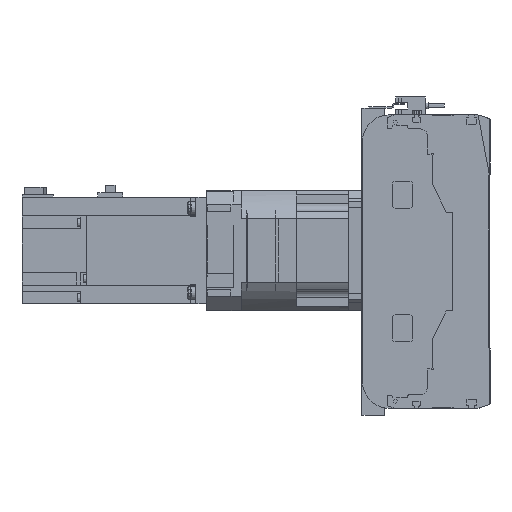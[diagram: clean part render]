
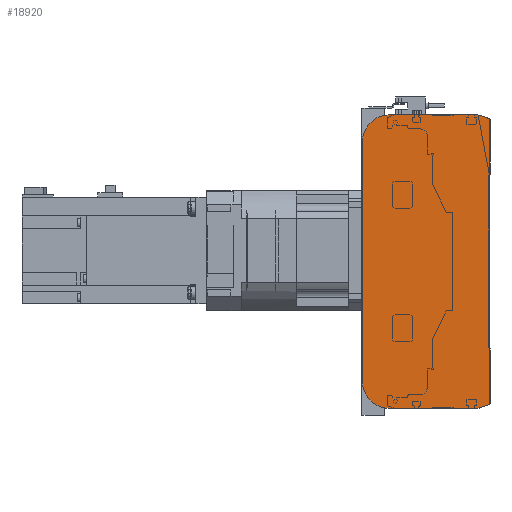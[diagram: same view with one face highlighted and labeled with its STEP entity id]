
A CAD part, left-side view. The second image highlights one B-rep face of the part: STEP entity #18920.
In plain terms, the highlighted planar face has unit normal (-1, 0, 0).
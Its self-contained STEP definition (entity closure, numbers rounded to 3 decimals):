
#1082=CIRCLE('',#20616,20.);
#1083=CIRCLE('',#20619,20.);
#4694=ORIENTED_EDGE('',*,*,#8200,.F.);
#4695=ORIENTED_EDGE('',*,*,#8242,.F.);
#4696=ORIENTED_EDGE('',*,*,#8240,.F.);
#4697=ORIENTED_EDGE('',*,*,#8238,.F.);
#4698=ORIENTED_EDGE('',*,*,#8227,.F.);
#4699=ORIENTED_EDGE('',*,*,#8218,.F.);
#4700=ORIENTED_EDGE('',*,*,#8214,.F.);
#4701=ORIENTED_EDGE('',*,*,#8211,.F.);
#8200=EDGE_CURVE('',#10297,#10298,#11995,.T.);
#8211=EDGE_CURVE('',#10298,#10305,#12006,.T.);
#8214=EDGE_CURVE('',#10305,#10307,#12009,.T.);
#8218=EDGE_CURVE('',#10307,#10308,#12013,.T.);
#8227=EDGE_CURVE('',#10308,#10314,#12022,.T.);
#8238=EDGE_CURVE('',#10314,#10321,#1082,.T.);
#8240=EDGE_CURVE('',#10321,#10322,#12034,.T.);
#8242=EDGE_CURVE('',#10322,#10297,#1083,.T.);
#10297=VERTEX_POINT('',#31306);
#10298=VERTEX_POINT('',#31308);
#10305=VERTEX_POINT('',#31327);
#10307=VERTEX_POINT('',#31333);
#10308=VERTEX_POINT('',#31339);
#10314=VERTEX_POINT('',#31355);
#10321=VERTEX_POINT('',#31374);
#10322=VERTEX_POINT('',#31378);
#11995=LINE('',#31307,#13580);
#12006=LINE('',#31326,#13591);
#12009=LINE('',#31332,#13594);
#12013=LINE('',#31338,#13598);
#12022=LINE('',#31354,#13607);
#12034=LINE('',#31377,#13619);
#13580=VECTOR('',#24959,1000.);
#13591=VECTOR('',#24972,1000.);
#13594=VECTOR('',#24977,1000.);
#13598=VECTOR('',#24983,1000.);
#13607=VECTOR('',#24994,1000.);
#13619=VECTOR('',#25012,1000.);
#15004=EDGE_LOOP('',(#4694,#4695,#4696,#4697,#4698,#4699,#4700,#4701));
#16790=FACE_BOUND('',#15004,.T.);
#18015=PLANE('',#20620);
#18920=ADVANCED_FACE('',(#16790),#18015,.F.);
#20616=AXIS2_PLACEMENT_3D('',#31373,#25007,#25008);
#20619=AXIS2_PLACEMENT_3D('',#31381,#25016,#25017);
#20620=AXIS2_PLACEMENT_3D('',#31382,#25018,#25019);
#24959=DIRECTION('',(0.,-1.,0.));
#24972=DIRECTION('',(0.,-0.945,-0.328));
#24977=DIRECTION('',(0.,0.,-1.));
#24983=DIRECTION('',(0.,0.945,-0.328));
#24994=DIRECTION('',(0.,1.,0.));
#25007=DIRECTION('',(1.,0.,0.));
#25008=DIRECTION('',(0.,0.,-1.));
#25012=DIRECTION('',(0.,0.,1.));
#25016=DIRECTION('',(1.,0.,0.));
#25017=DIRECTION('',(0.,0.,-1.));
#25018=DIRECTION('',(1.,0.,0.));
#25019=DIRECTION('',(0.,0.,-1.));
#31306=CARTESIAN_POINT('',(0.,75.5,110.));
#31307=CARTESIAN_POINT('',(0.,75.5,110.));
#31308=CARTESIAN_POINT('',(0.,9.,110.));
#31326=CARTESIAN_POINT('',(0.,9.,110.));
#31327=CARTESIAN_POINT('',(0.,0.5,107.05));
#31332=CARTESIAN_POINT('',(0.,0.5,107.05));
#31333=CARTESIAN_POINT('',(0.,0.5,-107.05));
#31338=CARTESIAN_POINT('',(0.,0.5,-107.05));
#31339=CARTESIAN_POINT('',(0.,9.,-110.));
#31354=CARTESIAN_POINT('',(0.,9.,-110.));
#31355=CARTESIAN_POINT('',(0.,75.5,-110.));
#31373=CARTESIAN_POINT('',(0.,75.5,-90.));
#31374=CARTESIAN_POINT('',(0.,95.5,-90.));
#31377=CARTESIAN_POINT('',(0.,95.5,-90.));
#31378=CARTESIAN_POINT('',(0.,95.5,90.));
#31381=CARTESIAN_POINT('',(0.,75.5,90.));
#31382=CARTESIAN_POINT('',(0.,75.5,-90.));
